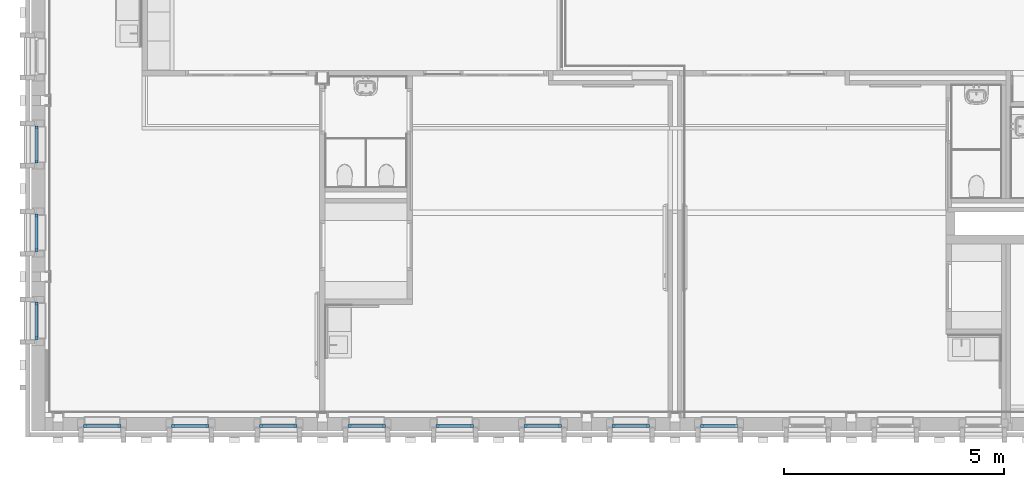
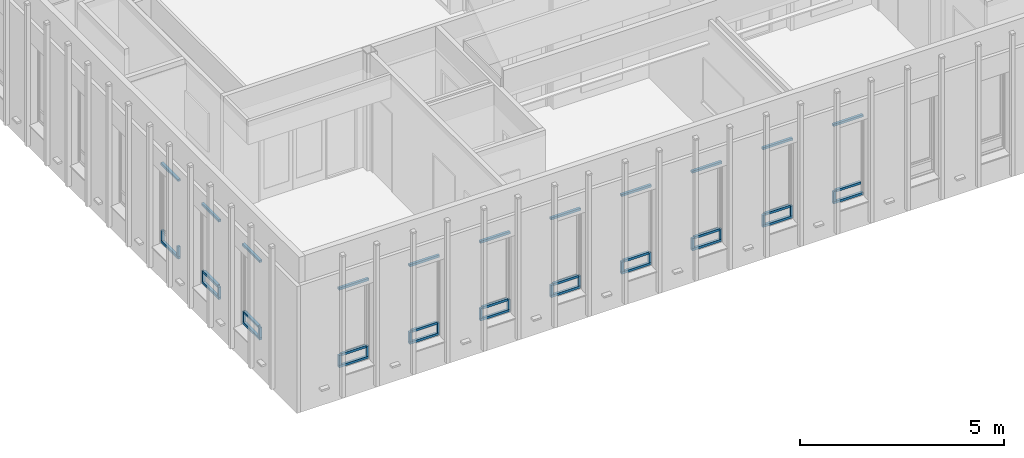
# One storey, part 8 of 118: 53 members, 11 elements without a shape of their own.
"""IFC2X3 building model written with IfcOpenShell, lengths in millimetres."""

from ifc_helpers import new_model, entity, si_unit, converted_unit, derived_unit, direction, frame, origin, origin_2d_with_axis, place, context, subcontext, project, spatial, rectangle, extrude, source, transform, mapped, material, material_list, type_object, type_shapes, element, aggregate, save


model = new_model("IFC2X3")

# Units and contexts
model_context = context("Model", 3, precision=0.01, world=origin(), true_north=direction((6.123031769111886e-17, 1.0)))
plan_context = context("Plan", 3, precision=0.01, world=origin(), true_north=direction((6.123031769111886e-17, 1.0)))
body_context = subcontext(model_context, "Body", "Model", "MODEL_VIEW")
ifc_project = project(units=[si_unit("LENGTHUNIT", "METRE", prefix="MILLI"), si_unit("AREAUNIT", "SQUARE_METRE"), si_unit("VOLUMEUNIT", "CUBIC_METRE"), converted_unit("PLANEANGLEUNIT", "DEGREE", entity("IfcRatioMeasure", 0.017453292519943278), si_unit("PLANEANGLEUNIT", "RADIAN"), dimensions=[0, 0, 0, 0, 0, 0, 0]), si_unit("MASSUNIT", "GRAM", prefix="KILO"), derived_unit("MASSDENSITYUNIT", [(si_unit("MASSUNIT", "GRAM", prefix="KILO"), 1), (si_unit("LENGTHUNIT", "METRE"), -3)]), derived_unit("IONCONCENTRATIONUNIT", [(si_unit("MASSUNIT", "GRAM", prefix="KILO"), 1), (si_unit("LENGTHUNIT", "METRE"), -3)]), derived_unit("MOMENTOFINERTIAUNIT", [(si_unit("LENGTHUNIT", "METRE"), 4)]), si_unit("TIMEUNIT", "SECOND"), si_unit("FREQUENCYUNIT", "HERTZ"), si_unit("THERMODYNAMICTEMPERATUREUNIT", "DEGREE_CELSIUS"), derived_unit("THERMALTRANSMITTANCEUNIT", [(si_unit("MASSUNIT", "GRAM", prefix="KILO"), 1), (si_unit("THERMODYNAMICTEMPERATUREUNIT", "KELVIN"), -1), (si_unit("TIMEUNIT", "SECOND"), -3)]), derived_unit("THERMALCONDUCTANCEUNIT", [(si_unit("MASSUNIT", "GRAM", prefix="KILO"), 1), (si_unit("THERMODYNAMICTEMPERATUREUNIT", "KELVIN"), -1), (si_unit("TIMEUNIT", "SECOND"), -3), (si_unit("LENGTHUNIT", "METRE"), 1)]), derived_unit("VOLUMETRICFLOWRATEUNIT", [(si_unit("LENGTHUNIT", "METRE"), 3), (si_unit("TIMEUNIT", "SECOND"), -1)]), derived_unit("MASSFLOWRATEUNIT", [(si_unit("MASSUNIT", "GRAM", prefix="KILO"), 1), (si_unit("TIMEUNIT", "SECOND"), -1)]), derived_unit("ROTATIONALFREQUENCYUNIT", [(si_unit("TIMEUNIT", "SECOND"), -1)]), si_unit("ELECTRICCURRENTUNIT", "AMPERE"), si_unit("ELECTRICVOLTAGEUNIT", "VOLT"), si_unit("POWERUNIT", "WATT"), si_unit("FORCEUNIT", "NEWTON", prefix="KILO"), si_unit("ILLUMINANCEUNIT", "LUX"), si_unit("LUMINOUSFLUXUNIT", "LUMEN"), si_unit("LUMINOUSINTENSITYUNIT", "CANDELA"), derived_unit("USERDEFINED", [(si_unit("MASSUNIT", "GRAM", prefix="KILO"), -1), (si_unit("LENGTHUNIT", "METRE"), -2), (si_unit("TIMEUNIT", "SECOND"), 3), (si_unit("LUMINOUSFLUXUNIT", "LUMEN"), 1)]), derived_unit("USERDEFINED", [(si_unit("MASSUNIT", "GRAM", prefix="KILO"), 1), (si_unit("TIMEUNIT", "SECOND"), -3), (si_unit("LENGTHUNIT", "METRE"), 3), (si_unit("ELECTRICCURRENTUNIT", "AMPERE"), -2)]), derived_unit("SOUNDPOWERUNIT", [(si_unit("MASSUNIT", "GRAM", prefix="KILO"), 1), (si_unit("TIMEUNIT", "SECOND"), -3), (si_unit("LENGTHUNIT", "METRE"), 2)]), derived_unit("SOUNDPRESSUREUNIT", [(si_unit("MASSUNIT", "GRAM", prefix="KILO"), 1), (si_unit("LENGTHUNIT", "METRE"), -1), (si_unit("TIMEUNIT", "SECOND"), -2)]), derived_unit("LINEARVELOCITYUNIT", [(si_unit("LENGTHUNIT", "METRE"), 1), (si_unit("TIMEUNIT", "SECOND"), -1)]), si_unit("PRESSUREUNIT", "PASCAL"), derived_unit("USERDEFINED", [(si_unit("MASSUNIT", "GRAM", prefix="KILO"), 1), (si_unit("LENGTHUNIT", "METRE"), -2), (si_unit("TIMEUNIT", "SECOND"), -2)]), derived_unit("LINEARFORCEUNIT", [(si_unit("MASSUNIT", "GRAM", prefix="KILO"), 1), (si_unit("TIMEUNIT", "SECOND"), -2)]), derived_unit("PLANARFORCEUNIT", [(si_unit("MASSUNIT", "GRAM", prefix="KILO"), 1), (si_unit("LENGTHUNIT", "METRE"), -1), (si_unit("TIMEUNIT", "SECOND"), -2)]), derived_unit("SPECIFICHEATCAPACITYUNIT", [(si_unit("THERMODYNAMICTEMPERATUREUNIT", "KELVIN"), -1), (si_unit("LENGTHUNIT", "METRE"), 2), (si_unit("TIMEUNIT", "SECOND"), -2)]), derived_unit("HEATINGVALUEUNIT", [(si_unit("LENGTHUNIT", "METRE"), 2), (si_unit("TIMEUNIT", "SECOND"), -2)]), derived_unit("VAPORPERMEABILITYUNIT", [(si_unit("LENGTHUNIT", "METRE"), -1), (si_unit("TIMEUNIT", "SECOND"), 1)]), derived_unit("DYNAMICVISCOSITYUNIT", [(si_unit("MASSUNIT", "GRAM", prefix="KILO"), 1), (si_unit("TIMEUNIT", "SECOND"), -1), (si_unit("LENGTHUNIT", "METRE"), -1)]), derived_unit("THERMALEXPANSIONCOEFFICIENTUNIT", [(si_unit("THERMODYNAMICTEMPERATUREUNIT", "KELVIN"), -1)]), derived_unit("MODULUSOFELASTICITYUNIT", [(si_unit("MASSUNIT", "GRAM", prefix="KILO"), 1), (si_unit("LENGTHUNIT", "METRE"), -1), (si_unit("TIMEUNIT", "SECOND"), -2)]), derived_unit("ISOTHERMALMOISTURECAPACITYUNIT", [(si_unit("LENGTHUNIT", "METRE"), 3), (si_unit("MASSUNIT", "GRAM", prefix="KILO"), -1)]), derived_unit("MOISTUREDIFFUSIVITYUNIT", [(si_unit("TIMEUNIT", "SECOND"), -1), (si_unit("LENGTHUNIT", "METRE"), 2)])], contexts=[model_context, plan_context])

# Site, building, storey
site_placement = place(None, origin())
site = spatial("IfcSite", under=ifc_project, at=site_placement, Name="Locatie", CompositionType="ELEMENT")
building_placement = place(site_placement, origin())
building = spatial("IfcBuilding", under=site, at=building_placement, Name="Bouwwerk", CompositionType="ELEMENT")
storey_placement = place(building_placement, frame((0.0, 0.0, 7800.0)))
storey = spatial("IfcBuildingStorey", under=building, at=storey_placement, Name="02 tweede verdieping", CompositionType="ELEMENT", Elevation=7800.000000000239)

# Curtain wall, member
curtain_wall_type = type_object("IfcCurtainWallType", Name="Curtain Wall:NLRS_21_CW_Ontwerpkozijn_aluminium_RT72", PredefinedType="NOTDEFINED")
curtain_wall_1_placement = place(storey_placement, frame((0.0, 0.0, -7800.0)))
curtain_wall_1 = element("IfcCurtainWall", 1, at=curtain_wall_1_placement, inside=storey, type_object=curtain_wall_type, Name="Curtain Wall:NLRS_21_CW_Ontwerpkozijn_aluminium_RT72", ObjectType="Curtain Wall:NLRS_21_CW_Ontwerpkozijn_aluminium_RT72")
ifc_material_1 = material(Name="a_kozijn")
ifc_material_2 = material(Name="<Unnamed>")
ifc_material_list = material_list([ifc_material_2, ifc_material_1])
member_type_1 = type_object("IfcMemberType", Name="Rectangular Mullion:RT72_Vb_raam", PredefinedType="MULLION", material=ifc_material_list)
shared_shape_1 = source(origin(), body_context, "Body", "SweptSolid", [
    extrude(rectangle(XDim=71.99999999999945, YDim=68.00000000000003, at=origin_2d_with_axis()), frame((-34.0, -36.0, -850.0), z_axis=(0.0, 0.0, 1.0), x_axis=(0.0, -1.0, 0.0)), (0.0, 0.0, 1.0), 850.0000000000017),
])
type_shapes(member_type_1, [shared_shape_1])
member_1_placement = place(curtain_wall_1_placement, frame((24875.0, 9847.0, 10863.0), z_axis=(-1.0, 0.0, 0.0), x_axis=(0.0, 0.0, 1.0)))
member_1 = element("IfcMember", 2, at=member_1_placement, type_object=member_type_1, material=ifc_material_1, Name="Rectangular Mullion:RT72_Vb_raam", ObjectType="Rectangular Mullion:RT72_Vb_raam", context=body_context, shape_type="MappedRepresentation", body=[
    mapped(shared_shape_1, transform((0.0, 0.0, 0.0), scale=1.0)),
])

curtain_wall_2_placement = place(storey_placement, frame((0.0, 0.0, -7800.0)))
curtain_wall_2 = element("IfcCurtainWall", 3, at=curtain_wall_2_placement, inside=storey, type_object=curtain_wall_type, Name="Curtain Wall:NLRS_21_CW_Ontwerpkozijn_aluminium_RT72", ObjectType="Curtain Wall:NLRS_21_CW_Ontwerpkozijn_aluminium_RT72")
member_2_placement = place(curtain_wall_2_placement, frame((18875.0, 9847.0, 10863.0), z_axis=(-1.0, 0.0, 0.0), x_axis=(0.0, 0.0, 1.0)))
member_2 = element("IfcMember", 4, at=member_2_placement, type_object=member_type_1, material=ifc_material_1, Name="Rectangular Mullion:RT72_Vb_raam", ObjectType="Rectangular Mullion:RT72_Vb_raam", context=body_context, shape_type="MappedRepresentation", body=[
    mapped(shared_shape_1, transform((0.0, 0.0, 0.0), scale=1.0)),
])

curtain_wall_3_placement = place(storey_placement, frame((0.0, 0.0, -7800.0)))
curtain_wall_3 = element("IfcCurtainWall", 5, at=curtain_wall_3_placement, inside=storey, type_object=curtain_wall_type, Name="Curtain Wall:NLRS_21_CW_Ontwerpkozijn_aluminium_RT72", ObjectType="Curtain Wall:NLRS_21_CW_Ontwerpkozijn_aluminium_RT72")
member_3_placement = place(curtain_wall_3_placement, frame((12875.0, 9847.0, 10863.0), z_axis=(-1.0, 0.0, 0.0), x_axis=(0.0, 0.0, 1.0)))
member_3 = element("IfcMember", 6, at=member_3_placement, type_object=member_type_1, material=ifc_material_1, Name="Rectangular Mullion:RT72_Vb_raam", ObjectType="Rectangular Mullion:RT72_Vb_raam", context=body_context, shape_type="MappedRepresentation", body=[
    mapped(shared_shape_1, transform((0.0, 0.0, 0.0), scale=1.0)),
])

curtain_wall_4_placement = place(storey_placement, frame((0.0, 0.0, -7800.0)))
curtain_wall_4 = element("IfcCurtainWall", 7, at=curtain_wall_4_placement, inside=storey, type_object=curtain_wall_type, Name="Curtain Wall:NLRS_21_CW_Ontwerpkozijn_aluminium_RT72", ObjectType="Curtain Wall:NLRS_21_CW_Ontwerpkozijn_aluminium_RT72")
member_4_placement = place(curtain_wall_4_placement, frame((9847.0, 14625.0, 10863.0), z_axis=(0.0, 1.0, 0.0), x_axis=(0.0, 0.0, 1.0)))
member_4 = element("IfcMember", 8, at=member_4_placement, type_object=member_type_1, material=ifc_material_1, Name="Rectangular Mullion:RT72_Vb_raam", ObjectType="Rectangular Mullion:RT72_Vb_raam", context=body_context, shape_type="MappedRepresentation", body=[
    mapped(shared_shape_1, transform((0.0, 0.0, 0.0), scale=1.0)),
])

curtain_wall_5_placement = place(storey_placement, frame((0.0, 0.0, -7800.0)))
curtain_wall_5 = element("IfcCurtainWall", 9, at=curtain_wall_5_placement, inside=storey, type_object=curtain_wall_type, Name="Curtain Wall:NLRS_21_CW_Ontwerpkozijn_aluminium_RT72", ObjectType="Curtain Wall:NLRS_21_CW_Ontwerpkozijn_aluminium_RT72")
member_5_placement = place(curtain_wall_5_placement, frame((10875.0, 9847.0, 10863.0), z_axis=(-1.0, 0.0, 0.0), x_axis=(0.0, 0.0, 1.0)))
member_5 = element("IfcMember", 10, at=member_5_placement, type_object=member_type_1, material=ifc_material_1, Name="Rectangular Mullion:RT72_Vb_raam", ObjectType="Rectangular Mullion:RT72_Vb_raam", context=body_context, shape_type="MappedRepresentation", body=[
    mapped(shared_shape_1, transform((0.0, 0.0, 0.0), scale=1.0)),
])

curtain_wall_6_placement = place(storey_placement, frame((0.0, 0.0, -7800.0)))
curtain_wall_6 = element("IfcCurtainWall", 11, at=curtain_wall_6_placement, inside=storey, type_object=curtain_wall_type, Name="Curtain Wall:NLRS_21_CW_Ontwerpkozijn_aluminium_RT72", ObjectType="Curtain Wall:NLRS_21_CW_Ontwerpkozijn_aluminium_RT72")
member_6_placement = place(curtain_wall_6_placement, frame((22875.0, 9847.0, 10863.0), z_axis=(-1.0, 0.0, 0.0), x_axis=(0.0, 0.0, 1.0)))
member_6 = element("IfcMember", 12, at=member_6_placement, type_object=member_type_1, material=ifc_material_1, Name="Rectangular Mullion:RT72_Vb_raam", ObjectType="Rectangular Mullion:RT72_Vb_raam", context=body_context, shape_type="MappedRepresentation", body=[
    mapped(shared_shape_1, transform((0.0, 0.0, 0.0), scale=1.0)),
])

curtain_wall_7_placement = place(storey_placement, frame((0.0, 0.0, -7800.0)))
curtain_wall_7 = element("IfcCurtainWall", 13, at=curtain_wall_7_placement, inside=storey, type_object=curtain_wall_type, Name="Curtain Wall:NLRS_21_CW_Ontwerpkozijn_aluminium_RT72", ObjectType="Curtain Wall:NLRS_21_CW_Ontwerpkozijn_aluminium_RT72")
member_7_placement = place(curtain_wall_7_placement, frame((16875.0, 9847.0, 10863.0), z_axis=(-1.0, 0.0, 0.0), x_axis=(0.0, 0.0, 1.0)))
member_7 = element("IfcMember", 14, at=member_7_placement, type_object=member_type_1, material=ifc_material_1, Name="Rectangular Mullion:RT72_Vb_raam", ObjectType="Rectangular Mullion:RT72_Vb_raam", context=body_context, shape_type="MappedRepresentation", body=[
    mapped(shared_shape_1, transform((0.0, 0.0, 0.0), scale=1.0)),
])

curtain_wall_8_placement = place(storey_placement, frame((0.0, 0.0, -7800.0)))
curtain_wall_8 = element("IfcCurtainWall", 15, at=curtain_wall_8_placement, inside=storey, type_object=curtain_wall_type, Name="Curtain Wall:NLRS_21_CW_Ontwerpkozijn_aluminium_RT72", ObjectType="Curtain Wall:NLRS_21_CW_Ontwerpkozijn_aluminium_RT72")
member_8_placement = place(curtain_wall_8_placement, frame((20875.0, 9847.0, 10863.0), z_axis=(-1.0, 0.0, 0.0), x_axis=(0.0, 0.0, 1.0)))
member_8 = element("IfcMember", 16, at=member_8_placement, type_object=member_type_1, material=ifc_material_1, Name="Rectangular Mullion:RT72_Vb_raam", ObjectType="Rectangular Mullion:RT72_Vb_raam", context=body_context, shape_type="MappedRepresentation", body=[
    mapped(shared_shape_1, transform((0.0, 0.0, 0.0), scale=1.0)),
])

curtain_wall_9_placement = place(storey_placement, frame((0.0, 0.0, -7800.0)))
curtain_wall_9 = element("IfcCurtainWall", 17, at=curtain_wall_9_placement, inside=storey, type_object=curtain_wall_type, Name="Curtain Wall:NLRS_21_CW_Ontwerpkozijn_aluminium_RT72", ObjectType="Curtain Wall:NLRS_21_CW_Ontwerpkozijn_aluminium_RT72")
member_9_placement = place(curtain_wall_9_placement, frame((14875.0, 9847.0, 10863.0), z_axis=(-1.0, 0.0, 0.0), x_axis=(0.0, 0.0, 1.0)))
member_9 = element("IfcMember", 18, at=member_9_placement, type_object=member_type_1, material=ifc_material_1, Name="Rectangular Mullion:RT72_Vb_raam", ObjectType="Rectangular Mullion:RT72_Vb_raam", context=body_context, shape_type="MappedRepresentation", body=[
    mapped(shared_shape_1, transform((0.0, 0.0, 0.0), scale=1.0)),
])

curtain_wall_10_placement = place(storey_placement, frame((0.0, 0.0, -7800.0)))
curtain_wall_10 = element("IfcCurtainWall", 19, at=curtain_wall_10_placement, inside=storey, type_object=curtain_wall_type, Name="Curtain Wall:NLRS_21_CW_Ontwerpkozijn_aluminium_RT72", ObjectType="Curtain Wall:NLRS_21_CW_Ontwerpkozijn_aluminium_RT72")
member_10_placement = place(curtain_wall_10_placement, frame((9847.0, 12625.0, 10863.0), z_axis=(0.0, 1.0, 0.0), x_axis=(0.0, 0.0, 1.0)))
member_10 = element("IfcMember", 20, at=member_10_placement, type_object=member_type_1, material=ifc_material_1, Name="Rectangular Mullion:RT72_Vb_raam", ObjectType="Rectangular Mullion:RT72_Vb_raam", context=body_context, shape_type="MappedRepresentation", body=[
    mapped(shared_shape_1, transform((0.0, 0.0, 0.0), scale=1.0)),
])

curtain_wall_11_placement = place(storey_placement, frame((0.0, 0.0, -7800.0)))
curtain_wall_11 = element("IfcCurtainWall", 21, at=curtain_wall_11_placement, inside=storey, type_object=curtain_wall_type, Name="Curtain Wall:NLRS_21_CW_Ontwerpkozijn_aluminium_RT72", ObjectType="Curtain Wall:NLRS_21_CW_Ontwerpkozijn_aluminium_RT72")
member_11_placement = place(curtain_wall_11_placement, frame((9847.0, 16625.0, 10863.0), z_axis=(0.0, 1.0, 0.0), x_axis=(0.0, 0.0, 1.0)))
member_11 = element("IfcMember", 22, at=member_11_placement, type_object=member_type_1, material=ifc_material_1, Name="Rectangular Mullion:RT72_Vb_raam", ObjectType="Rectangular Mullion:RT72_Vb_raam", context=body_context, shape_type="MappedRepresentation", body=[
    mapped(shared_shape_1, transform((0.0, 0.0, 0.0), scale=1.0)),
])

# Member
member_type_2 = type_object("IfcMemberType", Name="Rectangular Mullion:RT72_Vo_raam", PredefinedType="MULLION", material=ifc_material_list)
shared_shape_2 = source(origin(), body_context, "Body", "SweptSolid", [
    extrude(rectangle(XDim=71.99999999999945, YDim=68.00000000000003, at=origin_2d_with_axis()), frame((-34.0, -36.0, -850.0), z_axis=(0.0, 0.0, 1.0), x_axis=(0.0, -1.0, 0.0)), (0.0, 0.0, 1.0), 850.0000000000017),
])
type_shapes(member_type_2, [shared_shape_2])
member_12_placement = place(curtain_wall_1_placement, frame((25725.0, 9847.0, 8473.0), z_axis=(1.0, 0.0, 0.0), x_axis=(0.0, 0.0, -1.0)))
member_12 = element("IfcMember", 23, at=member_12_placement, type_object=member_type_2, material=ifc_material_1, Name="Rectangular Mullion:RT72_Vo_raam", ObjectType="Rectangular Mullion:RT72_Vo_raam", context=body_context, shape_type="MappedRepresentation", body=[
    mapped(shared_shape_2, transform((0.0, 0.0, 0.0), scale=1.0)),
])

member_13_placement = place(curtain_wall_2_placement, frame((19725.0, 9847.0, 8473.0), z_axis=(1.0, 0.0, 0.0), x_axis=(0.0, 0.0, -1.0)))
member_13 = element("IfcMember", 24, at=member_13_placement, type_object=member_type_2, material=ifc_material_1, Name="Rectangular Mullion:RT72_Vo_raam", ObjectType="Rectangular Mullion:RT72_Vo_raam", context=body_context, shape_type="MappedRepresentation", body=[
    mapped(shared_shape_2, transform((0.0, 0.0, 0.0), scale=1.0)),
])

member_14_placement = place(curtain_wall_3_placement, frame((13725.0, 9847.0, 8473.0), z_axis=(1.0, 0.0, 0.0), x_axis=(0.0, 0.0, -1.0)))
member_14 = element("IfcMember", 25, at=member_14_placement, type_object=member_type_2, material=ifc_material_1, Name="Rectangular Mullion:RT72_Vo_raam", ObjectType="Rectangular Mullion:RT72_Vo_raam", context=body_context, shape_type="MappedRepresentation", body=[
    mapped(shared_shape_2, transform((0.0, 0.0, 0.0), scale=1.0)),
])

member_15_placement = place(curtain_wall_4_placement, frame((9847.0, 13775.0, 8473.0), z_axis=(0.0, -1.0, 0.0), x_axis=(0.0, 0.0, -1.0)))
member_15 = element("IfcMember", 26, at=member_15_placement, type_object=member_type_2, material=ifc_material_1, Name="Rectangular Mullion:RT72_Vo_raam", ObjectType="Rectangular Mullion:RT72_Vo_raam", context=body_context, shape_type="MappedRepresentation", body=[
    mapped(shared_shape_2, transform((0.0, 0.0, 0.0), scale=1.0)),
])

member_16_placement = place(curtain_wall_5_placement, frame((11725.0, 9847.0, 8473.0), z_axis=(1.0, 0.0, 0.0), x_axis=(0.0, 0.0, -1.0)))
member_16 = element("IfcMember", 27, at=member_16_placement, type_object=member_type_2, material=ifc_material_1, Name="Rectangular Mullion:RT72_Vo_raam", ObjectType="Rectangular Mullion:RT72_Vo_raam", context=body_context, shape_type="MappedRepresentation", body=[
    mapped(shared_shape_2, transform((0.0, 0.0, 0.0), scale=1.0)),
])

member_17_placement = place(curtain_wall_6_placement, frame((23725.0, 9847.0, 8473.0), z_axis=(1.0, 0.0, 0.0), x_axis=(0.0, 0.0, -1.0)))
member_17 = element("IfcMember", 28, at=member_17_placement, type_object=member_type_2, material=ifc_material_1, Name="Rectangular Mullion:RT72_Vo_raam", ObjectType="Rectangular Mullion:RT72_Vo_raam", context=body_context, shape_type="MappedRepresentation", body=[
    mapped(shared_shape_2, transform((0.0, 0.0, 0.0), scale=1.0)),
])

member_18_placement = place(curtain_wall_7_placement, frame((17725.0, 9847.0, 8473.0), z_axis=(1.0, 0.0, 0.0), x_axis=(0.0, 0.0, -1.0)))
member_18 = element("IfcMember", 29, at=member_18_placement, type_object=member_type_2, material=ifc_material_1, Name="Rectangular Mullion:RT72_Vo_raam", ObjectType="Rectangular Mullion:RT72_Vo_raam", context=body_context, shape_type="MappedRepresentation", body=[
    mapped(shared_shape_2, transform((0.0, 0.0, 0.0), scale=1.0)),
])

member_19_placement = place(curtain_wall_8_placement, frame((21725.0, 9847.0, 8473.0), z_axis=(1.0, 0.0, 0.0), x_axis=(0.0, 0.0, -1.0)))
member_19 = element("IfcMember", 30, at=member_19_placement, type_object=member_type_2, material=ifc_material_1, Name="Rectangular Mullion:RT72_Vo_raam", ObjectType="Rectangular Mullion:RT72_Vo_raam", context=body_context, shape_type="MappedRepresentation", body=[
    mapped(shared_shape_2, transform((0.0, 0.0, 0.0), scale=1.0)),
])

member_20_placement = place(curtain_wall_9_placement, frame((15725.0, 9847.0, 8473.0), z_axis=(1.0, 0.0, 0.0), x_axis=(0.0, 0.0, -1.0)))
member_20 = element("IfcMember", 31, at=member_20_placement, type_object=member_type_2, material=ifc_material_1, Name="Rectangular Mullion:RT72_Vo_raam", ObjectType="Rectangular Mullion:RT72_Vo_raam", context=body_context, shape_type="MappedRepresentation", body=[
    mapped(shared_shape_2, transform((0.0, 0.0, 0.0), scale=1.0)),
])

member_21_placement = place(curtain_wall_10_placement, frame((9847.0, 11775.0, 8473.0), z_axis=(0.0, -1.0, 0.0), x_axis=(0.0, 0.0, -1.0)))
member_21 = element("IfcMember", 32, at=member_21_placement, type_object=member_type_2, material=ifc_material_1, Name="Rectangular Mullion:RT72_Vo_raam", ObjectType="Rectangular Mullion:RT72_Vo_raam", context=body_context, shape_type="MappedRepresentation", body=[
    mapped(shared_shape_2, transform((0.0, 0.0, 0.0), scale=1.0)),
])

member_22_placement = place(curtain_wall_11_placement, frame((9847.0, 15775.0, 8473.0), z_axis=(0.0, -1.0, 0.0), x_axis=(0.0, 0.0, -1.0)))
member_22 = element("IfcMember", 33, at=member_22_placement, type_object=member_type_2, material=ifc_material_1, Name="Rectangular Mullion:RT72_Vo_raam", ObjectType="Rectangular Mullion:RT72_Vo_raam", context=body_context, shape_type="MappedRepresentation", body=[
    mapped(shared_shape_2, transform((0.0, 0.0, 0.0), scale=1.0)),
])

member_type_3 = type_object("IfcMemberType", Name="Rectangular Mullion:RT72_Hl_raam", PredefinedType="MULLION", material=ifc_material_list)
shared_shape_3 = source(origin(), body_context, "Body", "SweptSolid", [
    extrude(rectangle(XDim=71.99999999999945, YDim=68.00000000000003, at=origin_2d_with_axis()), frame((-34.0, -36.0, -301.0), z_axis=(0.0, 0.0, 1.0), x_axis=(0.0, -1.0, 0.0)), (0.0, 0.0, 1.0), 301.00000000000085),
])
type_shapes(member_type_3, [shared_shape_3])
member_23_placement = place(curtain_wall_1_placement, frame((24875.0, 9847.0, 8541.0), z_axis=(0.0, 0.0, -1.0), x_axis=(-1.0, 0.0, 0.0)))
member_23 = element("IfcMember", 34, at=member_23_placement, type_object=member_type_3, material=ifc_material_1, Name="Rectangular Mullion:RT72_Hl_raam", ObjectType="Rectangular Mullion:RT72_Hl_raam", context=body_context, shape_type="MappedRepresentation", body=[
    mapped(shared_shape_3, transform((0.0, 0.0, 0.0), scale=1.0)),
])

member_24_placement = place(curtain_wall_2_placement, frame((18875.0, 9847.0, 8541.0), z_axis=(0.0, 0.0, -1.0), x_axis=(-1.0, 0.0, 0.0)))
member_24 = element("IfcMember", 35, at=member_24_placement, type_object=member_type_3, material=ifc_material_1, Name="Rectangular Mullion:RT72_Hl_raam", ObjectType="Rectangular Mullion:RT72_Hl_raam", context=body_context, shape_type="MappedRepresentation", body=[
    mapped(shared_shape_3, transform((0.0, 0.0, 0.0), scale=1.0)),
])

member_25_placement = place(curtain_wall_3_placement, frame((12875.0, 9847.0, 8541.0), z_axis=(0.0, 0.0, -1.0), x_axis=(-1.0, 0.0, 0.0)))
member_25 = element("IfcMember", 36, at=member_25_placement, type_object=member_type_3, material=ifc_material_1, Name="Rectangular Mullion:RT72_Hl_raam", ObjectType="Rectangular Mullion:RT72_Hl_raam", context=body_context, shape_type="MappedRepresentation", body=[
    mapped(shared_shape_3, transform((0.0, 0.0, 0.0), scale=1.0)),
])

member_26_placement = place(curtain_wall_4_placement, frame((9847.0, 14625.0, 8541.0), z_axis=(0.0, 0.0, -1.0), x_axis=(0.0, 1.0, 0.0)))
member_26 = element("IfcMember", 37, at=member_26_placement, type_object=member_type_3, material=ifc_material_1, Name="Rectangular Mullion:RT72_Hl_raam", ObjectType="Rectangular Mullion:RT72_Hl_raam", context=body_context, shape_type="MappedRepresentation", body=[
    mapped(shared_shape_3, transform((0.0, 0.0, 0.0), scale=1.0)),
])

member_27_placement = place(curtain_wall_5_placement, frame((10875.0, 9847.0, 8541.0), z_axis=(0.0, 0.0, -1.0), x_axis=(-1.0, 0.0, 0.0)))
member_27 = element("IfcMember", 38, at=member_27_placement, type_object=member_type_3, material=ifc_material_1, Name="Rectangular Mullion:RT72_Hl_raam", ObjectType="Rectangular Mullion:RT72_Hl_raam", context=body_context, shape_type="MappedRepresentation", body=[
    mapped(shared_shape_3, transform((0.0, 0.0, 0.0), scale=1.0)),
])

member_28_placement = place(curtain_wall_6_placement, frame((22875.0, 9847.0, 8541.0), z_axis=(0.0, 0.0, -1.0), x_axis=(-1.0, 0.0, 0.0)))
member_28 = element("IfcMember", 39, at=member_28_placement, type_object=member_type_3, material=ifc_material_1, Name="Rectangular Mullion:RT72_Hl_raam", ObjectType="Rectangular Mullion:RT72_Hl_raam", context=body_context, shape_type="MappedRepresentation", body=[
    mapped(shared_shape_3, transform((0.0, 0.0, 0.0), scale=1.0)),
])

member_29_placement = place(curtain_wall_7_placement, frame((16875.0, 9847.0, 8541.0), z_axis=(0.0, 0.0, -1.0), x_axis=(-1.0, 0.0, 0.0)))
member_29 = element("IfcMember", 40, at=member_29_placement, type_object=member_type_3, material=ifc_material_1, Name="Rectangular Mullion:RT72_Hl_raam", ObjectType="Rectangular Mullion:RT72_Hl_raam", context=body_context, shape_type="MappedRepresentation", body=[
    mapped(shared_shape_3, transform((0.0, 0.0, 0.0), scale=1.0)),
])

member_30_placement = place(curtain_wall_8_placement, frame((20875.0, 9847.0, 8541.0), z_axis=(0.0, 0.0, -1.0), x_axis=(-1.0, 0.0, 0.0)))
member_30 = element("IfcMember", 41, at=member_30_placement, type_object=member_type_3, material=ifc_material_1, Name="Rectangular Mullion:RT72_Hl_raam", ObjectType="Rectangular Mullion:RT72_Hl_raam", context=body_context, shape_type="MappedRepresentation", body=[
    mapped(shared_shape_3, transform((0.0, 0.0, 0.0), scale=1.0)),
])

member_31_placement = place(curtain_wall_9_placement, frame((14875.0, 9847.0, 8541.0), z_axis=(0.0, 0.0, -1.0), x_axis=(-1.0, 0.0, 0.0)))
member_31 = element("IfcMember", 42, at=member_31_placement, type_object=member_type_3, material=ifc_material_1, Name="Rectangular Mullion:RT72_Hl_raam", ObjectType="Rectangular Mullion:RT72_Hl_raam", context=body_context, shape_type="MappedRepresentation", body=[
    mapped(shared_shape_3, transform((0.0, 0.0, 0.0), scale=1.0)),
])

member_32_placement = place(curtain_wall_10_placement, frame((9847.0, 12625.0, 8541.0), z_axis=(0.0, 0.0, -1.0), x_axis=(0.0, 1.0, 0.0)))
member_32 = element("IfcMember", 43, at=member_32_placement, type_object=member_type_3, material=ifc_material_1, Name="Rectangular Mullion:RT72_Hl_raam", ObjectType="Rectangular Mullion:RT72_Hl_raam", context=body_context, shape_type="MappedRepresentation", body=[
    mapped(shared_shape_3, transform((0.0, 0.0, 0.0), scale=1.0)),
])

member_33_placement = place(curtain_wall_11_placement, frame((9847.0, 16625.0, 8541.0), z_axis=(0.0, 0.0, -1.0), x_axis=(0.0, 1.0, 0.0)))
member_33 = element("IfcMember", 44, at=member_33_placement, type_object=member_type_3, material=ifc_material_1, Name="Rectangular Mullion:RT72_Hl_raam", ObjectType="Rectangular Mullion:RT72_Hl_raam", context=body_context, shape_type="MappedRepresentation", body=[
    mapped(shared_shape_3, transform((0.0, 0.0, 0.0), scale=1.0)),
])

member_type_4 = type_object("IfcMemberType", Name="Rectangular Mullion:RT72_Hr_raam", PredefinedType="MULLION", material=ifc_material_list)
shared_shape_4 = source(origin(), body_context, "Body", "SweptSolid", [
    extrude(rectangle(XDim=71.99999999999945, YDim=68.00000000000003, at=origin_2d_with_axis()), frame((-34.0, -36.0, -301.0), z_axis=(0.0, 0.0, 1.0), x_axis=(0.0, -1.0, 0.0)), (0.0, 0.0, 1.0), 301.00000000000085),
])
type_shapes(member_type_4, [shared_shape_4])
member_34_placement = place(curtain_wall_2_placement, frame((19725.0, 9847.0, 8842.0)))
member_34 = element("IfcMember", 45, at=member_34_placement, type_object=member_type_4, material=ifc_material_1, Name="Rectangular Mullion:RT72_Hr_raam", ObjectType="Rectangular Mullion:RT72_Hr_raam", context=body_context, shape_type="MappedRepresentation", body=[
    mapped(shared_shape_4, transform((0.0, 0.0, 0.0), scale=1.0)),
])

member_35_placement = place(curtain_wall_3_placement, frame((13725.0, 9847.0, 8842.0)))
member_35 = element("IfcMember", 46, at=member_35_placement, type_object=member_type_4, material=ifc_material_1, Name="Rectangular Mullion:RT72_Hr_raam", ObjectType="Rectangular Mullion:RT72_Hr_raam", context=body_context, shape_type="MappedRepresentation", body=[
    mapped(shared_shape_4, transform((0.0, 0.0, 0.0), scale=1.0)),
])

member_36_placement = place(curtain_wall_4_placement, frame((9847.0, 13775.0, 8842.0), z_axis=(0.0, 0.0, 1.0), x_axis=(0.0, -1.0, 0.0)))
member_36 = element("IfcMember", 47, at=member_36_placement, type_object=member_type_4, material=ifc_material_1, Name="Rectangular Mullion:RT72_Hr_raam", ObjectType="Rectangular Mullion:RT72_Hr_raam", context=body_context, shape_type="MappedRepresentation", body=[
    mapped(shared_shape_4, transform((0.0, 0.0, 0.0), scale=1.0)),
])

member_37_placement = place(curtain_wall_5_placement, frame((11725.0, 9847.0, 8842.0)))
member_37 = element("IfcMember", 48, at=member_37_placement, type_object=member_type_4, material=ifc_material_1, Name="Rectangular Mullion:RT72_Hr_raam", ObjectType="Rectangular Mullion:RT72_Hr_raam", context=body_context, shape_type="MappedRepresentation", body=[
    mapped(shared_shape_4, transform((0.0, 0.0, 0.0), scale=1.0)),
])

member_38_placement = place(curtain_wall_6_placement, frame((23725.0, 9847.0, 8842.0)))
member_38 = element("IfcMember", 49, at=member_38_placement, type_object=member_type_4, material=ifc_material_1, Name="Rectangular Mullion:RT72_Hr_raam", ObjectType="Rectangular Mullion:RT72_Hr_raam", context=body_context, shape_type="MappedRepresentation", body=[
    mapped(shared_shape_4, transform((0.0, 0.0, 0.0), scale=1.0)),
])

member_39_placement = place(curtain_wall_7_placement, frame((17725.0, 9847.0, 8842.0)))
member_39 = element("IfcMember", 50, at=member_39_placement, type_object=member_type_4, material=ifc_material_1, Name="Rectangular Mullion:RT72_Hr_raam", ObjectType="Rectangular Mullion:RT72_Hr_raam", context=body_context, shape_type="MappedRepresentation", body=[
    mapped(shared_shape_4, transform((0.0, 0.0, 0.0), scale=1.0)),
])

member_40_placement = place(curtain_wall_8_placement, frame((21725.0, 9847.0, 8842.0)))
member_40 = element("IfcMember", 51, at=member_40_placement, type_object=member_type_4, material=ifc_material_1, Name="Rectangular Mullion:RT72_Hr_raam", ObjectType="Rectangular Mullion:RT72_Hr_raam", context=body_context, shape_type="MappedRepresentation", body=[
    mapped(shared_shape_4, transform((0.0, 0.0, 0.0), scale=1.0)),
])

member_41_placement = place(curtain_wall_9_placement, frame((15725.0, 9847.0, 8842.0)))
member_41 = element("IfcMember", 52, at=member_41_placement, type_object=member_type_4, material=ifc_material_1, Name="Rectangular Mullion:RT72_Hr_raam", ObjectType="Rectangular Mullion:RT72_Hr_raam", context=body_context, shape_type="MappedRepresentation", body=[
    mapped(shared_shape_4, transform((0.0, 0.0, 0.0), scale=1.0)),
])

member_42_placement = place(curtain_wall_10_placement, frame((9847.0, 11775.0, 8842.0), z_axis=(0.0, 0.0, 1.0), x_axis=(0.0, -1.0, 0.0)))
member_42 = element("IfcMember", 53, at=member_42_placement, type_object=member_type_4, material=ifc_material_1, Name="Rectangular Mullion:RT72_Hr_raam", ObjectType="Rectangular Mullion:RT72_Hr_raam", context=body_context, shape_type="MappedRepresentation", body=[
    mapped(shared_shape_4, transform((0.0, 0.0, 0.0), scale=1.0)),
])

member_43_placement = place(curtain_wall_11_placement, frame((9847.0, 15775.0, 8842.0), z_axis=(0.0, 0.0, 1.0), x_axis=(0.0, -1.0, 0.0)))
member_43 = element("IfcMember", 54, at=member_43_placement, type_object=member_type_4, material=ifc_material_1, Name="Rectangular Mullion:RT72_Hr_raam", ObjectType="Rectangular Mullion:RT72_Hr_raam", context=body_context, shape_type="MappedRepresentation", body=[
    mapped(shared_shape_4, transform((0.0, 0.0, 0.0), scale=1.0)),
])

aggregate(curtain_wall_11, [member_11, member_22, member_33, member_43])

member_type_5 = type_object("IfcMemberType", Name="Rectangular Mullion:RT72_Vb_raam", PredefinedType="MULLION", material=ifc_material_list)
shared_shape_5 = source(origin(), body_context, "Body", "SweptSolid", [
    extrude(rectangle(XDim=71.99999999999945, YDim=68.00000000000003, at=origin_2d_with_axis()), frame((0.0, -36.0, -714.0), z_axis=(0.0, 0.0, 1.0), x_axis=(0.0, -1.0, 0.0)), (0.0, 0.0, 1.0), 714.0000000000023),
])
type_shapes(member_type_5, [shared_shape_5])
member_44_placement = place(curtain_wall_1_placement, frame((24943.0, 9847.0, 8842.0), z_axis=(-1.0, 0.0, 0.0), x_axis=(0.0, 0.0, 1.0)))
member_44 = element("IfcMember", 55, at=member_44_placement, type_object=member_type_5, material=ifc_material_1, Name="Rectangular Mullion:RT72_Vb_raam", ObjectType="Rectangular Mullion:RT72_Vb_raam", context=body_context, shape_type="MappedRepresentation", body=[
    mapped(shared_shape_5, transform((0.0, 0.0, 0.0), scale=1.0)),
])

aggregate(curtain_wall_1, [member_1, member_12, member_23, member_44])

member_45_placement = place(curtain_wall_2_placement, frame((18943.0, 9847.0, 8842.0), z_axis=(-1.0, 0.0, 0.0), x_axis=(0.0, 0.0, 1.0)))
member_45 = element("IfcMember", 56, at=member_45_placement, type_object=member_type_5, material=ifc_material_1, Name="Rectangular Mullion:RT72_Vb_raam", ObjectType="Rectangular Mullion:RT72_Vb_raam", context=body_context, shape_type="MappedRepresentation", body=[
    mapped(shared_shape_5, transform((0.0, 0.0, 0.0), scale=1.0)),
])

aggregate(curtain_wall_2, [member_2, member_13, member_24, member_34, member_45])

member_46_placement = place(curtain_wall_3_placement, frame((12943.0, 9847.0, 8842.0), z_axis=(-1.0, 0.0, 0.0), x_axis=(0.0, 0.0, 1.0)))
member_46 = element("IfcMember", 57, at=member_46_placement, type_object=member_type_5, material=ifc_material_1, Name="Rectangular Mullion:RT72_Vb_raam", ObjectType="Rectangular Mullion:RT72_Vb_raam", context=body_context, shape_type="MappedRepresentation", body=[
    mapped(shared_shape_5, transform((0.0, 0.0, 0.0), scale=1.0)),
])

aggregate(curtain_wall_3, [member_3, member_14, member_25, member_35, member_46])

member_47_placement = place(curtain_wall_4_placement, frame((9847.0, 14557.0, 8842.0), z_axis=(0.0, 1.0, 0.0), x_axis=(0.0, 0.0, 1.0)))
member_47 = element("IfcMember", 58, at=member_47_placement, type_object=member_type_5, material=ifc_material_1, Name="Rectangular Mullion:RT72_Vb_raam", ObjectType="Rectangular Mullion:RT72_Vb_raam", context=body_context, shape_type="MappedRepresentation", body=[
    mapped(shared_shape_5, transform((0.0, 0.0, 0.0), scale=1.0)),
])

aggregate(curtain_wall_4, [member_4, member_15, member_26, member_36, member_47])

member_48_placement = place(curtain_wall_5_placement, frame((10943.0, 9847.0, 8842.0), z_axis=(-1.0, 0.0, 0.0), x_axis=(0.0, 0.0, 1.0)))
member_48 = element("IfcMember", 59, at=member_48_placement, type_object=member_type_5, material=ifc_material_1, Name="Rectangular Mullion:RT72_Vb_raam", ObjectType="Rectangular Mullion:RT72_Vb_raam", context=body_context, shape_type="MappedRepresentation", body=[
    mapped(shared_shape_5, transform((0.0, 0.0, 0.0), scale=1.0)),
])

aggregate(curtain_wall_5, [member_5, member_16, member_27, member_37, member_48])

member_49_placement = place(curtain_wall_6_placement, frame((22943.0, 9847.0, 8842.0), z_axis=(-1.0, 0.0, 0.0), x_axis=(0.0, 0.0, 1.0)))
member_49 = element("IfcMember", 60, at=member_49_placement, type_object=member_type_5, material=ifc_material_1, Name="Rectangular Mullion:RT72_Vb_raam", ObjectType="Rectangular Mullion:RT72_Vb_raam", context=body_context, shape_type="MappedRepresentation", body=[
    mapped(shared_shape_5, transform((0.0, 0.0, 0.0), scale=1.0)),
])

aggregate(curtain_wall_6, [member_6, member_17, member_28, member_38, member_49])

member_50_placement = place(curtain_wall_7_placement, frame((16943.0, 9847.0, 8842.0), z_axis=(-1.0, 0.0, 0.0), x_axis=(0.0, 0.0, 1.0)))
member_50 = element("IfcMember", 61, at=member_50_placement, type_object=member_type_5, material=ifc_material_1, Name="Rectangular Mullion:RT72_Vb_raam", ObjectType="Rectangular Mullion:RT72_Vb_raam", context=body_context, shape_type="MappedRepresentation", body=[
    mapped(shared_shape_5, transform((0.0, 0.0, 0.0), scale=1.0)),
])

aggregate(curtain_wall_7, [member_7, member_18, member_29, member_39, member_50])

member_51_placement = place(curtain_wall_8_placement, frame((20943.0, 9847.0, 8842.0), z_axis=(-1.0, 0.0, 0.0), x_axis=(0.0, 0.0, 1.0)))
member_51 = element("IfcMember", 62, at=member_51_placement, type_object=member_type_5, material=ifc_material_1, Name="Rectangular Mullion:RT72_Vb_raam", ObjectType="Rectangular Mullion:RT72_Vb_raam", context=body_context, shape_type="MappedRepresentation", body=[
    mapped(shared_shape_5, transform((0.0, 0.0, 0.0), scale=1.0)),
])

aggregate(curtain_wall_8, [member_8, member_19, member_30, member_40, member_51])

member_52_placement = place(curtain_wall_9_placement, frame((14943.0, 9847.0, 8842.0), z_axis=(-1.0, 0.0, 0.0), x_axis=(0.0, 0.0, 1.0)))
member_52 = element("IfcMember", 63, at=member_52_placement, type_object=member_type_5, material=ifc_material_1, Name="Rectangular Mullion:RT72_Vb_raam", ObjectType="Rectangular Mullion:RT72_Vb_raam", context=body_context, shape_type="MappedRepresentation", body=[
    mapped(shared_shape_5, transform((0.0, 0.0, 0.0), scale=1.0)),
])

aggregate(curtain_wall_9, [member_9, member_20, member_31, member_41, member_52])

member_53_placement = place(curtain_wall_10_placement, frame((9847.0, 12557.0, 8842.0), z_axis=(0.0, 1.0, 0.0), x_axis=(0.0, 0.0, 1.0)))
member_53 = element("IfcMember", 64, at=member_53_placement, type_object=member_type_5, material=ifc_material_1, Name="Rectangular Mullion:RT72_Vb_raam", ObjectType="Rectangular Mullion:RT72_Vb_raam", context=body_context, shape_type="MappedRepresentation", body=[
    mapped(shared_shape_5, transform((0.0, 0.0, 0.0), scale=1.0)),
])

aggregate(curtain_wall_10, [member_10, member_21, member_32, member_42, member_53])

save(model, "model.ifc")
